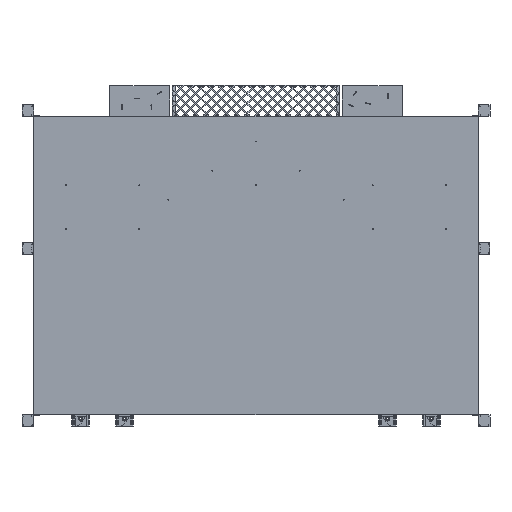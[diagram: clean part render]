
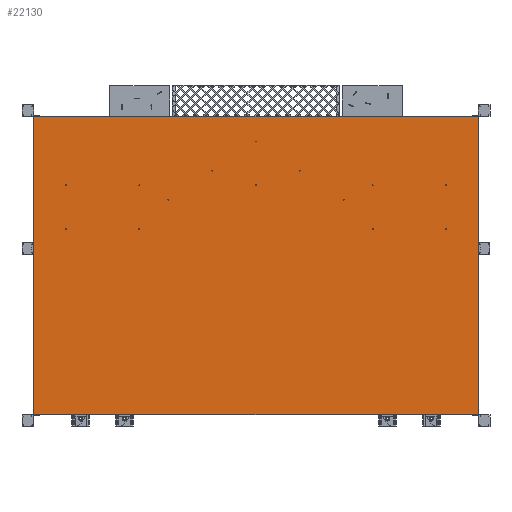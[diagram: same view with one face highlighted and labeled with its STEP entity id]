
A CAD part, front view. The second image highlights one B-rep face of the part: STEP entity #22130.
In plain terms, the highlighted planar face has unit normal (0, -1, 0).
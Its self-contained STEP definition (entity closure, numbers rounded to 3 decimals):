
#1828=FACE_BOUND('',#4291,.T.);
#1829=FACE_BOUND('',#4292,.T.);
#1830=FACE_BOUND('',#4293,.T.);
#1831=FACE_BOUND('',#4294,.T.);
#1832=FACE_BOUND('',#4295,.T.);
#1833=FACE_BOUND('',#4296,.T.);
#1834=FACE_BOUND('',#4297,.T.);
#1835=FACE_BOUND('',#4298,.T.);
#1836=FACE_BOUND('',#4299,.T.);
#1837=FACE_BOUND('',#4300,.T.);
#1838=FACE_BOUND('',#4301,.T.);
#1839=FACE_BOUND('',#4302,.T.);
#1840=FACE_BOUND('',#4303,.T.);
#1841=FACE_BOUND('',#4304,.T.);
#2107=CIRCLE('',#23312,2.5);
#2109=CIRCLE('',#23315,2.5);
#2111=CIRCLE('',#23318,2.5);
#2113=CIRCLE('',#23321,2.5);
#2115=CIRCLE('',#23324,2.5);
#2117=CIRCLE('',#23327,2.5);
#2119=CIRCLE('',#23330,2.5);
#2121=CIRCLE('',#23333,2.5);
#2123=CIRCLE('',#23336,2.5);
#2125=CIRCLE('',#23339,2.5);
#2127=CIRCLE('',#23342,2.5);
#2129=CIRCLE('',#23345,2.5);
#2131=CIRCLE('',#23348,2.5);
#2133=CIRCLE('',#23351,2.5);
#3019=FACE_OUTER_BOUND('',#4290,.T.);
#4290=EDGE_LOOP('',(#15796,#15797,#15798,#15799,#15800,#15801,#15802,#15803));
#4291=EDGE_LOOP('',(#15804));
#4292=EDGE_LOOP('',(#15805));
#4293=EDGE_LOOP('',(#15806));
#4294=EDGE_LOOP('',(#15807));
#4295=EDGE_LOOP('',(#15808));
#4296=EDGE_LOOP('',(#15809));
#4297=EDGE_LOOP('',(#15810));
#4298=EDGE_LOOP('',(#15811));
#4299=EDGE_LOOP('',(#15812));
#4300=EDGE_LOOP('',(#15813));
#4301=EDGE_LOOP('',(#15814));
#4302=EDGE_LOOP('',(#15815));
#4303=EDGE_LOOP('',(#15816));
#4304=EDGE_LOOP('',(#15817));
#5841=LINE('',#35413,#7755);
#5847=LINE('',#35424,#7761);
#5863=LINE('',#35457,#7777);
#5871=LINE('',#35473,#7785);
#5875=LINE('',#35482,#7789);
#5881=LINE('',#35492,#7795);
#5923=LINE('',#35585,#7837);
#5924=LINE('',#35586,#7838);
#7755=VECTOR('',#26487,822.);
#7761=VECTOR('',#26495,0.01);
#7777=VECTOR('',#26525,3043.98);
#7785=VECTOR('',#26537,822.);
#7789=VECTOR('',#26543,1222.);
#7795=VECTOR('',#26551,0.01);
#7837=VECTOR('',#26655,3044.);
#7838=VECTOR('',#26656,1222.);
#9645=VERTEX_POINT('',#35280);
#9647=VERTEX_POINT('',#35285);
#9649=VERTEX_POINT('',#35290);
#9651=VERTEX_POINT('',#35295);
#9653=VERTEX_POINT('',#35300);
#9655=VERTEX_POINT('',#35305);
#9657=VERTEX_POINT('',#35310);
#9659=VERTEX_POINT('',#35315);
#9661=VERTEX_POINT('',#35320);
#9663=VERTEX_POINT('',#35325);
#9665=VERTEX_POINT('',#35330);
#9667=VERTEX_POINT('',#35335);
#9669=VERTEX_POINT('',#35340);
#9671=VERTEX_POINT('',#35345);
#9688=VERTEX_POINT('',#35410);
#9689=VERTEX_POINT('',#35412);
#9693=VERTEX_POINT('',#35423);
#9703=VERTEX_POINT('',#35455);
#9709=VERTEX_POINT('',#35471);
#9710=VERTEX_POINT('',#35475);
#9713=VERTEX_POINT('',#35480);
#9736=VERTEX_POINT('',#35584);
#11895=EDGE_CURVE('',#9645,#9645,#2107,.T.);
#11897=EDGE_CURVE('',#9647,#9647,#2109,.T.);
#11899=EDGE_CURVE('',#9649,#9649,#2111,.T.);
#11901=EDGE_CURVE('',#9651,#9651,#2113,.T.);
#11903=EDGE_CURVE('',#9653,#9653,#2115,.T.);
#11905=EDGE_CURVE('',#9655,#9655,#2117,.T.);
#11907=EDGE_CURVE('',#9657,#9657,#2119,.T.);
#11909=EDGE_CURVE('',#9659,#9659,#2121,.T.);
#11911=EDGE_CURVE('',#9661,#9661,#2123,.T.);
#11913=EDGE_CURVE('',#9663,#9663,#2125,.T.);
#11915=EDGE_CURVE('',#9665,#9665,#2127,.T.);
#11917=EDGE_CURVE('',#9667,#9667,#2129,.T.);
#11919=EDGE_CURVE('',#9669,#9669,#2131,.T.);
#11921=EDGE_CURVE('',#9671,#9671,#2133,.T.);
#11953=EDGE_CURVE('',#9689,#9688,#5841,.T.);
#11959=EDGE_CURVE('',#9693,#9689,#5847,.T.);
#11976=EDGE_CURVE('',#9688,#9703,#5863,.T.);
#11984=EDGE_CURVE('',#9703,#9709,#5871,.T.);
#11988=EDGE_CURVE('',#9710,#9713,#5875,.T.);
#11994=EDGE_CURVE('',#9709,#9710,#5881,.T.);
#12040=EDGE_CURVE('',#9713,#9736,#5923,.T.);
#12041=EDGE_CURVE('',#9736,#9693,#5924,.T.);
#15796=ORIENTED_EDGE('',*,*,#11953,.T.);
#15797=ORIENTED_EDGE('',*,*,#11976,.T.);
#15798=ORIENTED_EDGE('',*,*,#11984,.T.);
#15799=ORIENTED_EDGE('',*,*,#11994,.T.);
#15800=ORIENTED_EDGE('',*,*,#11988,.T.);
#15801=ORIENTED_EDGE('',*,*,#12040,.T.);
#15802=ORIENTED_EDGE('',*,*,#12041,.T.);
#15803=ORIENTED_EDGE('',*,*,#11959,.T.);
#15804=ORIENTED_EDGE('',*,*,#11895,.T.);
#15805=ORIENTED_EDGE('',*,*,#11897,.T.);
#15806=ORIENTED_EDGE('',*,*,#11899,.T.);
#15807=ORIENTED_EDGE('',*,*,#11901,.T.);
#15808=ORIENTED_EDGE('',*,*,#11903,.T.);
#15809=ORIENTED_EDGE('',*,*,#11905,.T.);
#15810=ORIENTED_EDGE('',*,*,#11907,.T.);
#15811=ORIENTED_EDGE('',*,*,#11909,.T.);
#15812=ORIENTED_EDGE('',*,*,#11911,.T.);
#15813=ORIENTED_EDGE('',*,*,#11913,.T.);
#15814=ORIENTED_EDGE('',*,*,#11915,.T.);
#15815=ORIENTED_EDGE('',*,*,#11917,.T.);
#15816=ORIENTED_EDGE('',*,*,#11919,.T.);
#15817=ORIENTED_EDGE('',*,*,#11921,.T.);
#21003=PLANE('',#23414);
#22130=ADVANCED_FACE('',(#3019,#1828,#1829,#1830,#1831,#1832,#1833,#1834,
#1835,#1836,#1837,#1838,#1839,#1840,#1841),#21003,.T.);
#23312=AXIS2_PLACEMENT_3D('',#35281,#26339,#26340);
#23315=AXIS2_PLACEMENT_3D('',#35286,#26345,#26346);
#23318=AXIS2_PLACEMENT_3D('',#35291,#26351,#26352);
#23321=AXIS2_PLACEMENT_3D('',#35296,#26357,#26358);
#23324=AXIS2_PLACEMENT_3D('',#35301,#26363,#26364);
#23327=AXIS2_PLACEMENT_3D('',#35306,#26369,#26370);
#23330=AXIS2_PLACEMENT_3D('',#35311,#26375,#26376);
#23333=AXIS2_PLACEMENT_3D('',#35316,#26381,#26382);
#23336=AXIS2_PLACEMENT_3D('',#35321,#26387,#26388);
#23339=AXIS2_PLACEMENT_3D('',#35326,#26393,#26394);
#23342=AXIS2_PLACEMENT_3D('',#35331,#26399,#26400);
#23345=AXIS2_PLACEMENT_3D('',#35336,#26405,#26406);
#23348=AXIS2_PLACEMENT_3D('',#35341,#26411,#26412);
#23351=AXIS2_PLACEMENT_3D('',#35346,#26417,#26418);
#23414=AXIS2_PLACEMENT_3D('',#35583,#26653,#26654);
#26339=DIRECTION('center_axis',(0.,1.,0.));
#26340=DIRECTION('ref_axis',(-1.,0.,0.));
#26345=DIRECTION('center_axis',(0.,1.,0.));
#26346=DIRECTION('ref_axis',(-1.,0.,0.));
#26351=DIRECTION('center_axis',(0.,1.,0.));
#26352=DIRECTION('ref_axis',(-1.,0.,0.));
#26357=DIRECTION('center_axis',(0.,1.,0.));
#26358=DIRECTION('ref_axis',(-1.,0.,0.));
#26363=DIRECTION('center_axis',(0.,1.,0.));
#26364=DIRECTION('ref_axis',(-1.,0.,0.));
#26369=DIRECTION('center_axis',(0.,1.,0.));
#26370=DIRECTION('ref_axis',(-1.,0.,0.));
#26375=DIRECTION('center_axis',(0.,1.,0.));
#26376=DIRECTION('ref_axis',(1.,0.,0.));
#26381=DIRECTION('center_axis',(0.,1.,0.));
#26382=DIRECTION('ref_axis',(1.,0.,0.));
#26387=DIRECTION('center_axis',(0.,1.,0.));
#26388=DIRECTION('ref_axis',(1.,0.,0.));
#26393=DIRECTION('center_axis',(0.,1.,0.));
#26394=DIRECTION('ref_axis',(1.,0.,0.));
#26399=DIRECTION('center_axis',(0.,1.,0.));
#26400=DIRECTION('ref_axis',(1.,0.,0.));
#26405=DIRECTION('center_axis',(0.,1.,0.));
#26406=DIRECTION('ref_axis',(1.,0.,0.));
#26411=DIRECTION('center_axis',(0.,1.,0.));
#26412=DIRECTION('ref_axis',(1.,0.,0.));
#26417=DIRECTION('center_axis',(0.,1.,0.));
#26418=DIRECTION('ref_axis',(1.,0.,0.));
#26487=DIRECTION('',(0.,0.,1.));
#26495=DIRECTION('',(-1.,0.,0.));
#26525=DIRECTION('',(-1.,0.,0.));
#26537=DIRECTION('',(0.,0.,-1.));
#26543=DIRECTION('',(0.,0.,-1.));
#26551=DIRECTION('',(-1.,0.,0.));
#26653=DIRECTION('center_axis',(0.,-1.,0.));
#26654=DIRECTION('ref_axis',(0.,0.,-1.));
#26655=DIRECTION('',(1.,0.,0.));
#26656=DIRECTION('',(0.,0.,1.));
#35280=CARTESIAN_POINT('',(-719.5,-10.,-772.));
#35281=CARTESIAN_POINT('Origin',(-722.,-10.,-772.));
#35285=CARTESIAN_POINT('',(-719.5,-10.,-472.));
#35286=CARTESIAN_POINT('Origin',(-722.,-10.,-472.));
#35290=CARTESIAN_POINT('',(-1219.5,-10.,-372.));
#35291=CARTESIAN_POINT('Origin',(-1222.,-10.,-372.));
#35295=CARTESIAN_POINT('',(-219.5,-10.,-472.));
#35296=CARTESIAN_POINT('Origin',(-222.,-10.,-472.));
#35300=CARTESIAN_POINT('',(-219.5,-10.,-772.));
#35301=CARTESIAN_POINT('Origin',(-222.,-10.,-772.));
#35305=CARTESIAN_POINT('',(-919.5,-10.,-572.));
#35306=CARTESIAN_POINT('Origin',(-922.,-10.,-572.));
#35310=CARTESIAN_POINT('',(-2324.5,-10.,-772.));
#35311=CARTESIAN_POINT('Origin',(-2322.,-10.,-772.));
#35315=CARTESIAN_POINT('',(-1524.5,-10.,-472.));
#35316=CARTESIAN_POINT('Origin',(-1522.,-10.,-472.));
#35320=CARTESIAN_POINT('',(-2124.5,-10.,-572.));
#35321=CARTESIAN_POINT('Origin',(-2122.,-10.,-572.));
#35325=CARTESIAN_POINT('',(-2824.5,-10.,-772.));
#35326=CARTESIAN_POINT('Origin',(-2822.,-10.,-772.));
#35330=CARTESIAN_POINT('',(-2824.5,-10.,-472.));
#35331=CARTESIAN_POINT('Origin',(-2822.,-10.,-472.));
#35335=CARTESIAN_POINT('',(-1824.5,-10.,-372.));
#35336=CARTESIAN_POINT('Origin',(-1822.,-10.,-372.));
#35340=CARTESIAN_POINT('',(-1524.5,-10.,-172.));
#35341=CARTESIAN_POINT('Origin',(-1522.,-10.,-172.));
#35345=CARTESIAN_POINT('',(-2324.5,-10.,-472.));
#35346=CARTESIAN_POINT('Origin',(-2322.,-10.,-472.));
#35410=CARTESIAN_POINT('',(-0.01,-10.,0.));
#35412=CARTESIAN_POINT('',(-0.01,-10.,-822.));
#35413=CARTESIAN_POINT('',(-0.01,-10.,-716.5));
#35423=CARTESIAN_POINT('',(0.,-10.,-822.));
#35424=CARTESIAN_POINT('',(-772.,-10.,-822.));
#35455=CARTESIAN_POINT('',(-3043.99,-10.,0.));
#35457=CARTESIAN_POINT('',(0.,-10.,0.));
#35471=CARTESIAN_POINT('',(-3043.99,-10.,-822.));
#35473=CARTESIAN_POINT('',(-3043.99,-10.,-716.5));
#35475=CARTESIAN_POINT('',(-3044.,-10.,-822.));
#35480=CARTESIAN_POINT('',(-3044.,-10.,-2044.));
#35482=CARTESIAN_POINT('',(-3044.,-10.,0.));
#35492=CARTESIAN_POINT('',(-2283.,-10.,-822.));
#35583=CARTESIAN_POINT('Origin',(-1522.,-10.,-1022.));
#35584=CARTESIAN_POINT('',(0.,-10.,-2044.));
#35585=CARTESIAN_POINT('',(-3044.,-10.,-2044.));
#35586=CARTESIAN_POINT('',(0.,-10.,-2044.));
